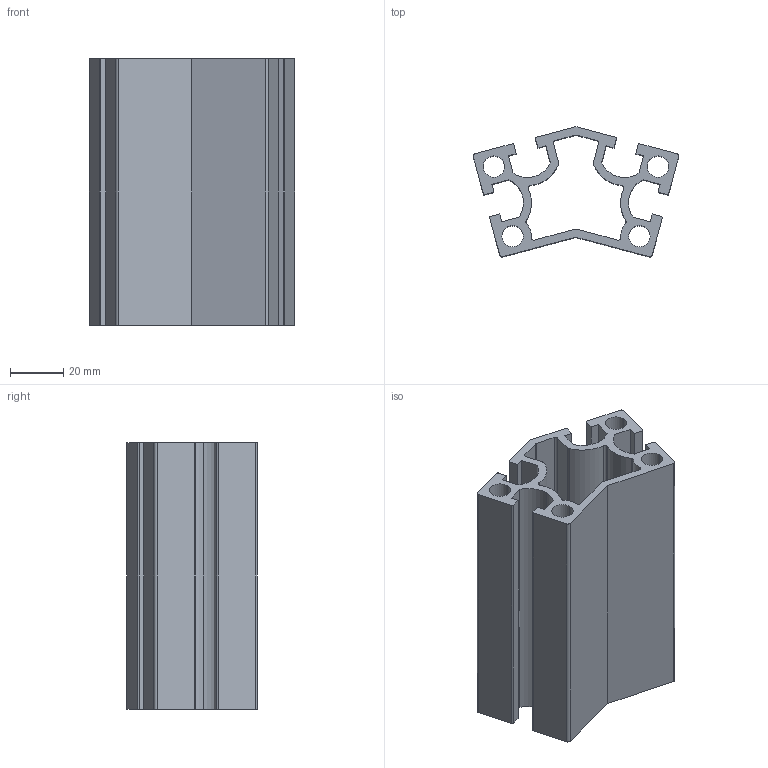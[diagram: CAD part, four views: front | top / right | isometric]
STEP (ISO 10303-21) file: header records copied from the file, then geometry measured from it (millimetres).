
FILE_DESCRIPTION (( 'STEP AP203' ), '1' );
FILE_NAME ('WS4040150-8.STEP', '2024-02-19T05:39:46', ( '' ), ( '' ), 'SwSTEP 2.0', 'SolidWorks 2022', '' );
FILE_SCHEMA (( 'CONFIG_CONTROL_DESIGN' ));
Length unit declared in the file: millimetre
Products named in the file (1): WS4040150-8
Bounding box: 76.92 x 48.78 x 100 mm (x, y, z)
Volume: 97105.6 mm3; surface area: 61745.3 mm2
Topology: 1 solids, 1 shells, 95 faces, 279 edges, 186 vertices
Faces by surface type: cylinder 53, plane 42
Entity records: 3296 total; most frequent: DIRECTION 577, CARTESIAN_POINT 561, ORIENTED_EDGE 558, EDGE_CURVE 279, AXIS2_PLACEMENT_3D 202, VERTEX_POINT 186, VECTOR 173, LINE 173
